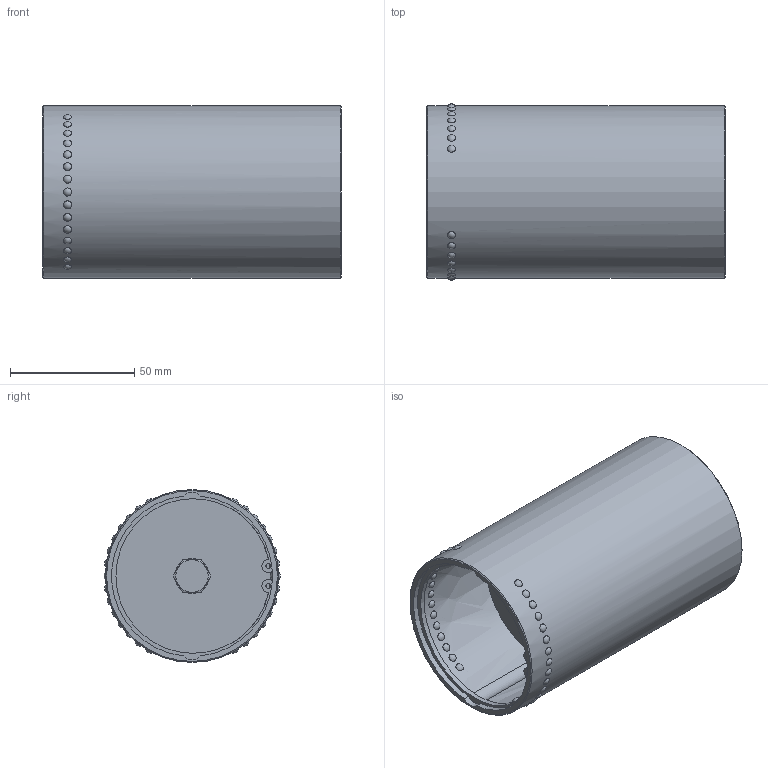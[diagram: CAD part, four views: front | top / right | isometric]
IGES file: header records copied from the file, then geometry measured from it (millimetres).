
Global section: file name: GSAB63120.ipt; native system: Autodesk Inventor 2021; preprocessor: unknown; author: SM; date: 20220119.063655; units: millimetre
Bounding box: 120 x 71 x 69.4 mm (x, y, z)
Volume: 67258.2 mm3; surface area: 62071.3 mm2
Topology: 5 solids, 5 shells, 115 faces, 191 edges, 148 vertices
Faces by surface type: sphere 60, plane 22, revolution 13, cylinder 11, cone 9
Full cylindrical faces by diameter (mm): 8 x1, 12 x1, 14 x1, 69.4 x1
